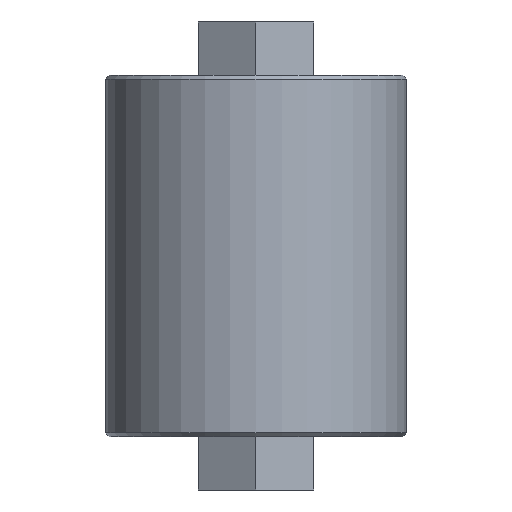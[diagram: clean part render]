
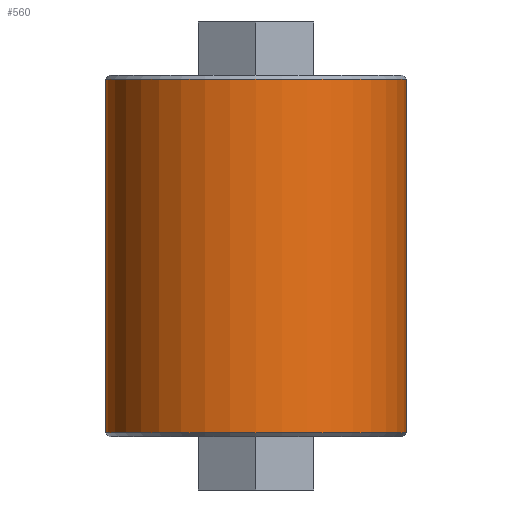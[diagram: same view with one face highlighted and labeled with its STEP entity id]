
A CAD part, front view. The second image highlights one B-rep face of the part: STEP entity #560.
In plain terms, the highlighted cylindrical face has radius 28.6 mm (diameter 57.2 mm), a partial arc.
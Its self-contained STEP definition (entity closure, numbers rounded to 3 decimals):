
#560=ADVANCED_FACE('',(#1520),#1521,.T.);
#1520=FACE_OUTER_BOUND('',#2956,.T.);
#1521=CYLINDRICAL_SURFACE('',#2957,28.6);
#2956=EDGE_LOOP('',(#4648,#4649,#4650,#4651));
#2957=AXIS2_PLACEMENT_3D('',#4652,#4653,#4654);
#4648=ORIENTED_EDGE('',*,*,#8421,.F.);
#4649=ORIENTED_EDGE('',*,*,#8419,.F.);
#4650=ORIENTED_EDGE('',*,*,#8422,.F.);
#4651=ORIENTED_EDGE('',*,*,#8423,.F.);
#4652=CARTESIAN_POINT('',(0.0,0.0,0.0));
#4653=DIRECTION('',(-0.0,0.0,-1.0));
#4654=DIRECTION('',(-1.0,0.0,0.0));
#8419=EDGE_CURVE('',#10117,#10113,#10119,.T.);
#8421=EDGE_CURVE('',#10113,#10121,#10122,.T.);
#8422=EDGE_CURVE('',#10123,#10117,#10124,.T.);
#8423=EDGE_CURVE('',#10121,#10123,#10125,.T.);
#10113=VERTEX_POINT('',#12770);
#10117=VERTEX_POINT('',#12775);
#10119=CIRCLE('',#12778,28.6);
#10121=VERTEX_POINT('',#12780);
#10122=LINE('',#12781,#12782);
#10123=VERTEX_POINT('',#12783);
#10124=LINE('',#12784,#12785);
#10125=CIRCLE('',#12786,28.6);
#12770=CARTESIAN_POINT('',(-28.6,0.,0.7));
#12775=CARTESIAN_POINT('',(28.6,0.,0.7));
#12778=AXIS2_PLACEMENT_3D('',#16277,#16278,#16279);
#12780=CARTESIAN_POINT('',(-28.6,0.,67.88));
#12781=CARTESIAN_POINT('',(-28.6,0.,34.29));
#12782=VECTOR('',#16280,1.0);
#12783=CARTESIAN_POINT('',(28.6,0.,67.88));
#12784=CARTESIAN_POINT('',(28.6,0.,34.29));
#12785=VECTOR('',#16281,1.0);
#12786=AXIS2_PLACEMENT_3D('',#16282,#16283,#16284);
#16277=CARTESIAN_POINT('',(0.0,0.0,0.7));
#16278=DIRECTION('',(0.0,0.0,-1.0));
#16279=DIRECTION('',(-1.0,0.0,0.0));
#16280=DIRECTION('',(-0.0,-0.0,1.0));
#16281=DIRECTION('',(-0.0,-0.0,-1.0));
#16282=CARTESIAN_POINT('',(0.0,0.0,67.88));
#16283=DIRECTION('',(0.0,0.0,1.0));
#16284=DIRECTION('',(-1.0,0.0,0.0));
